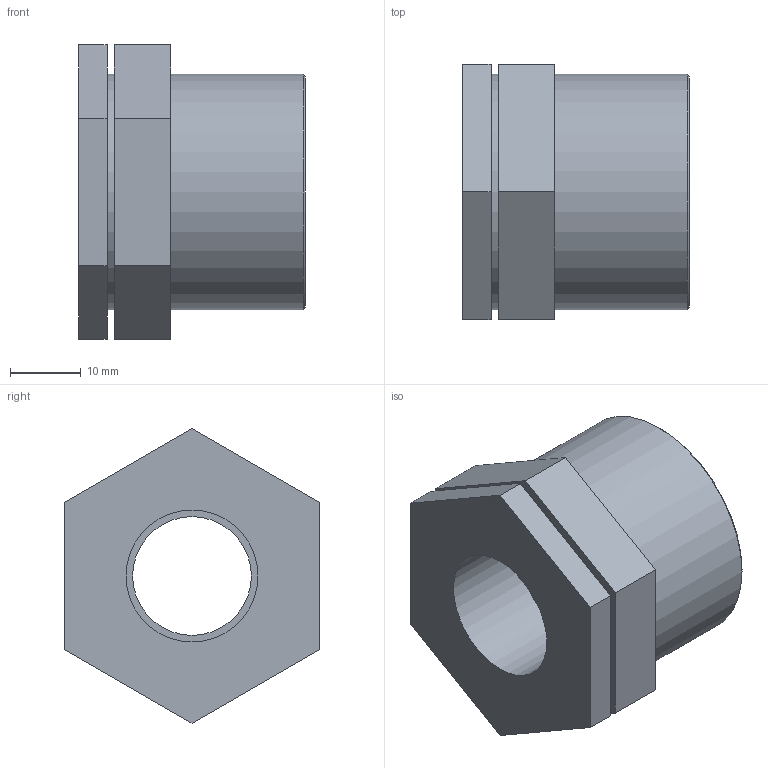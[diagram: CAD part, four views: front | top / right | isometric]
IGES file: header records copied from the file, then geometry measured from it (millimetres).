
Global section: file name: 050207010005_0502070100050A.ipt; native system: Autodesk Inventor 2015; preprocessor: unknown; author: KIM; date: 20170618.093111; units: millimetre
Bounding box: 32 x 36 x 41.57 mm (x, y, z)
Volume: 13542.2 mm3; surface area: 8950.3 mm2
Topology: 1 solids, 1 shells, 28 faces, 66 edges, 46 vertices
Faces by surface type: plane 20, revolution 4, cylinder 3, cone 1
Full cylindrical faces by diameter (mm): 22.357 x1, 33.249 x2
